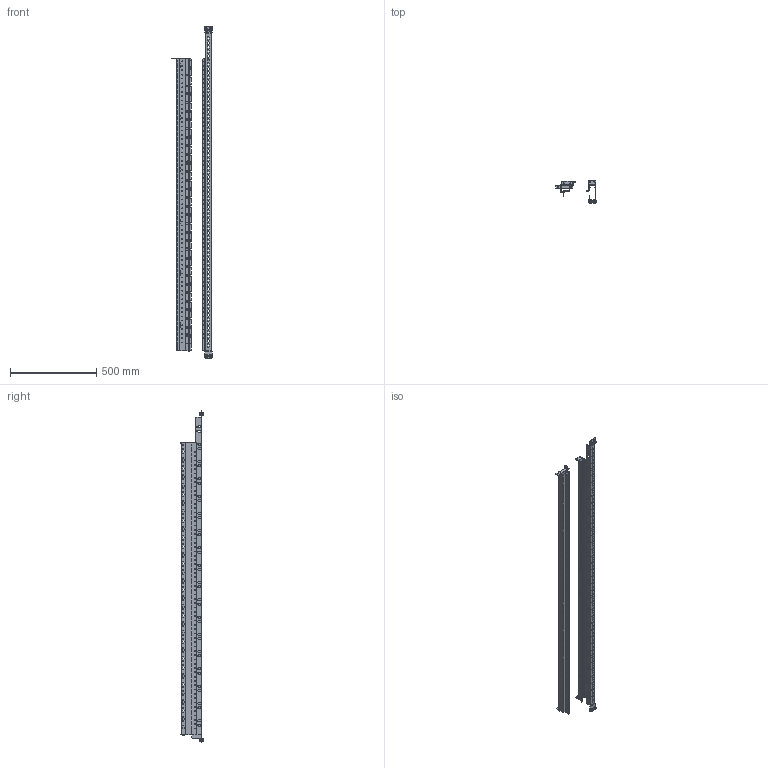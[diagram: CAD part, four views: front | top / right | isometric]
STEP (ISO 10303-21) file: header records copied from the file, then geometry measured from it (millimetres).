
FILE_DESCRIPTION(('CAx-IF Rec.Pracs.---Model Styling and Organization---1.2---2011-12-15','CAx-IF Rec.Pracs.---Geometric and Assembly Validation Properties---4.1---2014-06-16','CAx-IF Rec.Pracs.---PMI Polyline Presentation---2.0---2013-05-24'),'2;1');
FILE_NAME('R5M2ACRS33M8.stp','2021-05-05T12:01:16+03:00',(''),(''),'STEP Interface 4.4 by CT CoreTechnologie','3D_Evolution4.4 by CT CoreTechnologie','');
FILE_SCHEMA(('AUTOMOTIVE_DESIGN { 1 0 10303 214 1 1 1 1 }'));
Length unit declared in the file: millimetre
Products named in the file (11): R5M2ACRS33M8; RB.1271.00.00.0 ÑÁ_-01; RB.1271.00.01.0_-01; RB.1271.00.02.0_-01; M5x8-DIN7500C_stright; RB.1397.00.00.0_- 01 (KODIROVKA); RB.0838.00.00.0_-03; RB.0857.00.00.0_-01; RB.0502.00.00.0_-02; M8x16-DIN 6921_thread; M8-DIN 6923 (CM100800)_thread
Assembly tree (19 placements, depth 3):
  R5M2ACRS33M8
    RB.1271.00.00.0 ÑÁ_-01
      RB.1271.00.01.0_-01
      RB.1271.00.02.0_-01
      M5x8-DIN7500C_stright  x4
    RB.1397.00.00.0_- 01 (KODIROVKA)
    RB.0838.00.00.0_-03
    RB.0857.00.00.0_-01
    RB.0502.00.00.0_-02
    M8x16-DIN 6921_thread  x4
    M8-DIN 6923 (CM100800)_thread  x4
Bounding box: 232.5 x 130 x 1920.95 mm (x, y, z)
Surface area: 2063018.5 mm2 (no closed solid volume)
Topology: 0 solids, 22 shells, 3831 faces, 11219 edges, 7354 vertices
Faces by surface type: plane 1951, cylinder 1622, bspline 258
Entity records: 124935 total; most frequent: CARTESIAN_POINT 22408, ORIENTED_EDGE 21214, DIRECTION 20755, EDGE_CURVE 10607, VECTOR 7349, LINE 7349, VERTEX_POINT 7018, AXIS2_PLACEMENT_3D 6703
